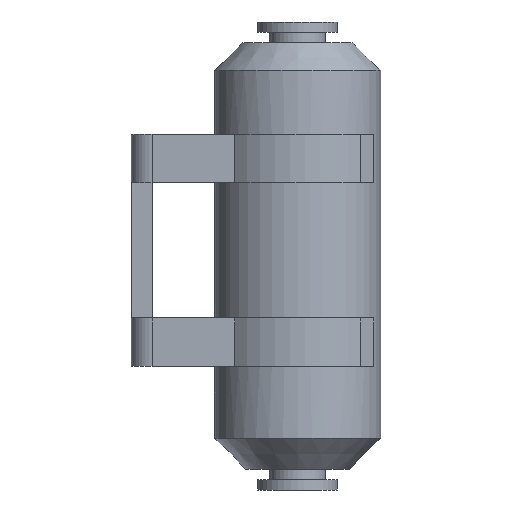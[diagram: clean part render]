
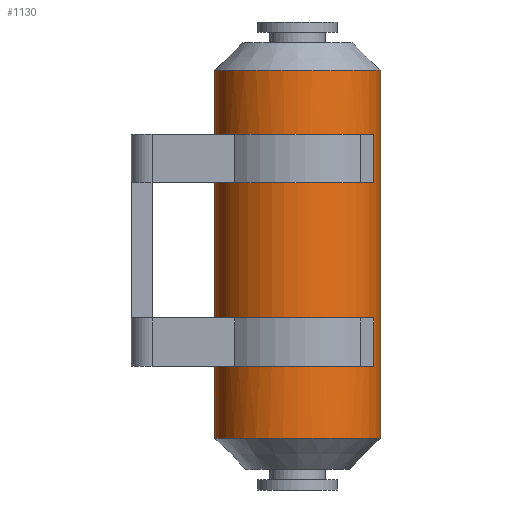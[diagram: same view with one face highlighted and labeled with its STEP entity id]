
A CAD part, front view. The second image highlights one B-rep face of the part: STEP entity #1130.
In plain terms, the highlighted cylindrical face has radius 12 mm (diameter 24 mm), a full revolution.
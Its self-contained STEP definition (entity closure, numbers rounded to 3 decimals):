
#24=FACE_BOUND('',#179,.T.);
#25=FACE_BOUND('',#180,.T.);
#114=FACE_OUTER_BOUND('',#178,.T.);
#178=EDGE_LOOP('',(#996,#997,#998,#999,#1000,#1001,#1002,#1003,#1004,#1005,
#1006,#1007,#1008,#1009,#1010,#1011,#1012,#1013,#1014,#1015,#1016,#1017));
#179=EDGE_LOOP('',(#1018,#1019,#1020,#1021));
#180=EDGE_LOOP('',(#1022,#1023,#1024,#1025));
#223=LINE('',#1727,#324);
#228=LINE('',#1736,#329);
#248=LINE('',#1784,#349);
#249=LINE('',#1787,#350);
#253=LINE('',#1794,#354);
#254=LINE('',#1797,#355);
#266=LINE('',#1825,#367);
#274=LINE('',#1845,#375);
#287=LINE('',#1917,#388);
#288=LINE('',#1918,#389);
#289=LINE('',#1919,#390);
#324=VECTOR('',#1367,10.);
#329=VECTOR('',#1374,10.);
#349=VECTOR('',#1424,10.);
#350=VECTOR('',#1427,10.);
#354=VECTOR('',#1433,10.);
#355=VECTOR('',#1436,10.);
#367=VECTOR('',#1464,10.);
#375=VECTOR('',#1486,10.);
#388=VECTOR('',#1573,12.);
#389=VECTOR('',#1574,12.);
#390=VECTOR('',#1575,12.);
#399=CIRCLE('',#1168,12.);
#402=CIRCLE('',#1171,12.);
#403=CIRCLE('',#1173,12.);
#406=CIRCLE('',#1176,12.);
#407=CIRCLE('',#1178,12.);
#412=CIRCLE('',#1185,12.);
#419=CIRCLE('',#1215,12.);
#420=CIRCLE('',#1216,12.);
#421=CIRCLE('',#1217,12.);
#424=CIRCLE('',#1227,12.);
#425=CIRCLE('',#1228,12.);
#426=CIRCLE('',#1229,12.);
#441=CIRCLE('',#1253,12.);
#442=CIRCLE('',#1254,12.);
#443=CIRCLE('',#1256,12.);
#444=CIRCLE('',#1257,12.);
#467=VERTEX_POINT('',#1649);
#468=VERTEX_POINT('',#1650);
#474=VERTEX_POINT('',#1663);
#475=VERTEX_POINT('',#1667);
#476=VERTEX_POINT('',#1668);
#482=VERTEX_POINT('',#1681);
#483=VERTEX_POINT('',#1685);
#485=VERTEX_POINT('',#1688);
#499=VERTEX_POINT('',#1720);
#500=VERTEX_POINT('',#1722);
#501=VERTEX_POINT('',#1726);
#504=VERTEX_POINT('',#1734);
#517=VERTEX_POINT('',#1782);
#518=VERTEX_POINT('',#1786);
#520=VERTEX_POINT('',#1792);
#521=VERTEX_POINT('',#1796);
#529=VERTEX_POINT('',#1824);
#530=VERTEX_POINT('',#1829);
#534=VERTEX_POINT('',#1843);
#538=VERTEX_POINT('',#1864);
#553=VERTEX_POINT('',#1907);
#554=VERTEX_POINT('',#1908);
#555=VERTEX_POINT('',#1913);
#556=VERTEX_POINT('',#1914);
#581=EDGE_CURVE('',#467,#468,#399,.T.);
#589=EDGE_CURVE('',#468,#474,#402,.T.);
#590=EDGE_CURVE('',#475,#476,#403,.T.);
#598=EDGE_CURVE('',#476,#482,#406,.T.);
#600=EDGE_CURVE('',#485,#483,#407,.T.);
#617=EDGE_CURVE('',#500,#499,#412,.T.);
#619=EDGE_CURVE('',#501,#467,#223,.T.);
#624=EDGE_CURVE('',#482,#504,#228,.T.);
#648=EDGE_CURVE('',#474,#517,#248,.T.);
#649=EDGE_CURVE('',#518,#475,#249,.T.);
#653=EDGE_CURVE('',#483,#520,#253,.T.);
#654=EDGE_CURVE('',#521,#500,#254,.T.);
#668=EDGE_CURVE('',#529,#485,#266,.T.);
#671=EDGE_CURVE('',#530,#501,#419,.T.);
#672=EDGE_CURVE('',#517,#530,#420,.T.);
#674=EDGE_CURVE('',#520,#529,#421,.T.);
#680=EDGE_CURVE('',#499,#534,#274,.T.);
#689=EDGE_CURVE('',#534,#521,#424,.T.);
#691=EDGE_CURVE('',#538,#518,#425,.T.);
#692=EDGE_CURVE('',#504,#538,#426,.T.);
#710=EDGE_CURVE('',#553,#554,#441,.T.);
#711=EDGE_CURVE('',#554,#553,#442,.T.);
#713=EDGE_CURVE('',#555,#556,#443,.T.);
#714=EDGE_CURVE('',#556,#555,#444,.T.);
#715=EDGE_CURVE('',#556,#530,#287,.T.);
#716=EDGE_CURVE('',#468,#476,#288,.T.);
#717=EDGE_CURVE('',#538,#554,#289,.T.);
#996=ORIENTED_EDGE('',*,*,#713,.F.);
#997=ORIENTED_EDGE('',*,*,#714,.F.);
#998=ORIENTED_EDGE('',*,*,#715,.T.);
#999=ORIENTED_EDGE('',*,*,#671,.T.);
#1000=ORIENTED_EDGE('',*,*,#619,.T.);
#1001=ORIENTED_EDGE('',*,*,#581,.T.);
#1002=ORIENTED_EDGE('',*,*,#716,.T.);
#1003=ORIENTED_EDGE('',*,*,#598,.T.);
#1004=ORIENTED_EDGE('',*,*,#624,.T.);
#1005=ORIENTED_EDGE('',*,*,#692,.T.);
#1006=ORIENTED_EDGE('',*,*,#717,.T.);
#1007=ORIENTED_EDGE('',*,*,#711,.T.);
#1008=ORIENTED_EDGE('',*,*,#710,.T.);
#1009=ORIENTED_EDGE('',*,*,#717,.F.);
#1010=ORIENTED_EDGE('',*,*,#691,.T.);
#1011=ORIENTED_EDGE('',*,*,#649,.T.);
#1012=ORIENTED_EDGE('',*,*,#590,.T.);
#1013=ORIENTED_EDGE('',*,*,#716,.F.);
#1014=ORIENTED_EDGE('',*,*,#589,.T.);
#1015=ORIENTED_EDGE('',*,*,#648,.T.);
#1016=ORIENTED_EDGE('',*,*,#672,.T.);
#1017=ORIENTED_EDGE('',*,*,#715,.F.);
#1018=ORIENTED_EDGE('',*,*,#653,.T.);
#1019=ORIENTED_EDGE('',*,*,#674,.T.);
#1020=ORIENTED_EDGE('',*,*,#668,.T.);
#1021=ORIENTED_EDGE('',*,*,#600,.T.);
#1022=ORIENTED_EDGE('',*,*,#617,.T.);
#1023=ORIENTED_EDGE('',*,*,#680,.T.);
#1024=ORIENTED_EDGE('',*,*,#689,.T.);
#1025=ORIENTED_EDGE('',*,*,#654,.T.);
#1079=CYLINDRICAL_SURFACE('',#1255,12.);
#1130=ADVANCED_FACE('',(#114,#24,#25),#1079,.T.);
#1168=AXIS2_PLACEMENT_3D('',#1651,#1305,#1306);
#1171=AXIS2_PLACEMENT_3D('',#1665,#1316,#1317);
#1173=AXIS2_PLACEMENT_3D('',#1669,#1320,#1321);
#1176=AXIS2_PLACEMENT_3D('',#1683,#1331,#1332);
#1178=AXIS2_PLACEMENT_3D('',#1689,#1336,#1337);
#1185=AXIS2_PLACEMENT_3D('',#1723,#1362,#1363);
#1215=AXIS2_PLACEMENT_3D('',#1830,#1469,#1470);
#1216=AXIS2_PLACEMENT_3D('',#1831,#1471,#1472);
#1217=AXIS2_PLACEMENT_3D('',#1833,#1474,#1475);
#1227=AXIS2_PLACEMENT_3D('',#1862,#1506,#1507);
#1228=AXIS2_PLACEMENT_3D('',#1865,#1509,#1510);
#1229=AXIS2_PLACEMENT_3D('',#1866,#1511,#1512);
#1253=AXIS2_PLACEMENT_3D('',#1909,#1562,#1563);
#1254=AXIS2_PLACEMENT_3D('',#1910,#1564,#1565);
#1255=AXIS2_PLACEMENT_3D('',#1912,#1567,#1568);
#1256=AXIS2_PLACEMENT_3D('',#1915,#1569,#1570);
#1257=AXIS2_PLACEMENT_3D('',#1916,#1571,#1572);
#1305=DIRECTION('center_axis',(0.,0.,1.));
#1306=DIRECTION('ref_axis',(0.812,0.583,0.));
#1316=DIRECTION('center_axis',(0.,0.,1.));
#1317=DIRECTION('ref_axis',(0.812,0.583,0.));
#1320=DIRECTION('center_axis',(0.,0.,-1.));
#1321=DIRECTION('ref_axis',(0.812,0.583,0.));
#1331=DIRECTION('center_axis',(0.,0.,-1.));
#1332=DIRECTION('ref_axis',(0.812,0.583,0.));
#1336=DIRECTION('center_axis',(0.,0.,1.));
#1337=DIRECTION('ref_axis',(-0.8,-0.6,0.));
#1362=DIRECTION('center_axis',(0.,0.,-1.));
#1363=DIRECTION('ref_axis',(-0.8,-0.6,0.));
#1367=DIRECTION('',(0.,0.,1.));
#1374=DIRECTION('',(0.,0.,1.));
#1424=DIRECTION('',(0.,0.,-1.));
#1427=DIRECTION('',(0.,0.,-1.));
#1433=DIRECTION('',(0.,0.,-1.));
#1436=DIRECTION('',(0.,0.,-1.));
#1464=DIRECTION('',(0.,0.,1.));
#1469=DIRECTION('center_axis',(0.,0.,-1.));
#1470=DIRECTION('ref_axis',(0.,1.,0.));
#1471=DIRECTION('center_axis',(0.,0.,-1.));
#1472=DIRECTION('ref_axis',(0.,1.,0.));
#1474=DIRECTION('center_axis',(0.,0.,-1.));
#1475=DIRECTION('ref_axis',(0.,1.,0.));
#1486=DIRECTION('',(0.,0.,1.));
#1506=DIRECTION('center_axis',(0.,0.,1.));
#1507=DIRECTION('ref_axis',(0.,1.,0.));
#1509=DIRECTION('center_axis',(0.,0.,1.));
#1510=DIRECTION('ref_axis',(0.,1.,0.));
#1511=DIRECTION('center_axis',(0.,0.,1.));
#1512=DIRECTION('ref_axis',(0.,1.,0.));
#1562=DIRECTION('center_axis',(0.,0.,-1.));
#1563=DIRECTION('ref_axis',(1.,0.,0.));
#1564=DIRECTION('center_axis',(0.,0.,-1.));
#1565=DIRECTION('ref_axis',(1.,0.,0.));
#1567=DIRECTION('center_axis',(0.,0.,-1.));
#1568=DIRECTION('ref_axis',(0.,1.,0.));
#1569=DIRECTION('center_axis',(0.,0.,-1.));
#1570=DIRECTION('ref_axis',(1.,0.,0.));
#1571=DIRECTION('center_axis',(0.,0.,-1.));
#1572=DIRECTION('ref_axis',(1.,0.,0.));
#1573=DIRECTION('',(0.,0.,1.));
#1574=DIRECTION('',(0.,0.,1.));
#1575=DIRECTION('',(0.,0.,1.));
#1649=CARTESIAN_POINT('',(-9.747,-7.,-9.75));
#1650=CARTESIAN_POINT('',(0.,-12.,-9.75));
#1651=CARTESIAN_POINT('Origin',(0.,0.,-9.75));
#1663=CARTESIAN_POINT('',(9.6,-7.2,-9.75));
#1665=CARTESIAN_POINT('Origin',(0.,0.,-9.75));
#1667=CARTESIAN_POINT('',(9.6,-7.2,9.75));
#1668=CARTESIAN_POINT('',(0.,-12.,9.75));
#1669=CARTESIAN_POINT('Origin',(0.,0.,9.75));
#1681=CARTESIAN_POINT('',(-9.747,-7.,9.75));
#1683=CARTESIAN_POINT('Origin',(0.,0.,9.75));
#1685=CARTESIAN_POINT('',(-9.747,7.,-9.75));
#1688=CARTESIAN_POINT('',(9.6,7.2,-9.75));
#1689=CARTESIAN_POINT('Origin',(0.,0.,-9.75));
#1720=CARTESIAN_POINT('',(9.6,7.2,9.75));
#1722=CARTESIAN_POINT('',(-9.747,7.,9.75));
#1723=CARTESIAN_POINT('Origin',(0.,0.,9.75));
#1726=CARTESIAN_POINT('',(-9.747,-7.,-16.75));
#1727=CARTESIAN_POINT('',(-9.747,-7.,-13.507));
#1734=CARTESIAN_POINT('',(-9.747,-7.,16.75));
#1736=CARTESIAN_POINT('',(-9.747,-7.,-13.507));
#1782=CARTESIAN_POINT('',(9.6,-7.2,-16.75));
#1784=CARTESIAN_POINT('',(9.6,-7.2,-13.507));
#1786=CARTESIAN_POINT('',(9.6,-7.2,16.75));
#1787=CARTESIAN_POINT('',(9.6,-7.2,-13.507));
#1792=CARTESIAN_POINT('',(-9.747,7.,-16.75));
#1794=CARTESIAN_POINT('',(-9.747,7.,-13.507));
#1796=CARTESIAN_POINT('',(-9.747,7.,16.75));
#1797=CARTESIAN_POINT('',(-9.747,7.,-13.507));
#1824=CARTESIAN_POINT('',(9.6,7.2,-16.75));
#1825=CARTESIAN_POINT('',(9.6,7.2,-13.507));
#1829=CARTESIAN_POINT('',(0.,-12.,-16.75));
#1830=CARTESIAN_POINT('Origin',(0.,0.,-16.75));
#1831=CARTESIAN_POINT('Origin',(0.,0.,-16.75));
#1833=CARTESIAN_POINT('Origin',(0.,0.,-16.75));
#1843=CARTESIAN_POINT('',(9.6,7.2,16.75));
#1845=CARTESIAN_POINT('',(9.6,7.2,-13.507));
#1862=CARTESIAN_POINT('Origin',(0.,0.,16.75));
#1864=CARTESIAN_POINT('',(0.,-12.,16.75));
#1865=CARTESIAN_POINT('Origin',(0.,0.,16.75));
#1866=CARTESIAN_POINT('Origin',(0.,0.,16.75));
#1907=CARTESIAN_POINT('',(0.,12.,26.));
#1908=CARTESIAN_POINT('',(0.,-12.,26.));
#1909=CARTESIAN_POINT('Origin',(0.,0.,26.));
#1910=CARTESIAN_POINT('Origin',(0.,0.,26.));
#1912=CARTESIAN_POINT('Origin',(0.,0.,-13.507));
#1913=CARTESIAN_POINT('',(0.,12.,-27.1));
#1914=CARTESIAN_POINT('',(0.,-12.,-27.1));
#1915=CARTESIAN_POINT('Origin',(0.,0.,-27.1));
#1916=CARTESIAN_POINT('Origin',(0.,0.,-27.1));
#1917=CARTESIAN_POINT('',(0.,-12.,-13.507));
#1918=CARTESIAN_POINT('',(0.,-12.,-13.507));
#1919=CARTESIAN_POINT('',(0.,-12.,-13.507));
